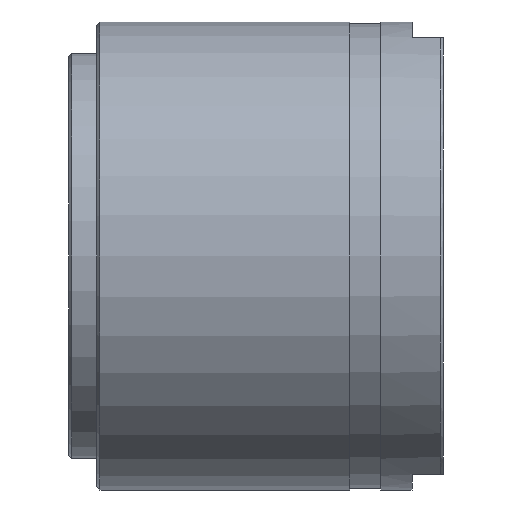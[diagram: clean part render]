
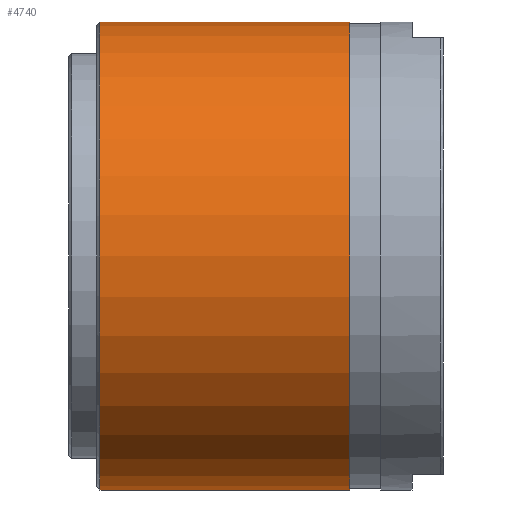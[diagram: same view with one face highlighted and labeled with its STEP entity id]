
A CAD part, left-side view. The second image highlights one B-rep face of the part: STEP entity #4740.
In plain terms, the highlighted cylindrical face has radius 7.5 mm (diameter 15 mm), a partial arc.
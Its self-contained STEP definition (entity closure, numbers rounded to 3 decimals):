
#351 = LINE ( 'NONE', #1102, #4996 ) ;
#673 = ORIENTED_EDGE ( 'NONE', *, *, #9951, .T. ) ;
#808 = VERTEX_POINT ( 'NONE', #10222 ) ;
#810 = EDGE_CURVE ( 'NONE', #808, #6524, #351, .T. ) ;
#880 = CARTESIAN_POINT ( 'NONE',  ( 0., -2.999, 7.5 ) ) ;
#901 = CARTESIAN_POINT ( 'NONE',  ( 0., 5., -7.5 ) ) ;
#952 = VERTEX_POINT ( 'NONE', #1483 ) ;
#1102 = CARTESIAN_POINT ( 'NONE',  ( 0., 6., -7.5 ) ) ;
#1279 = EDGE_CURVE ( 'NONE', #952, #6524, #1405, .T. ) ;
#1304 = ORIENTED_EDGE ( 'NONE', *, *, #1279, .T. ) ;
#1405 = CIRCLE ( 'NONE', #2786, 7.5 ) ;
#1483 = CARTESIAN_POINT ( 'NONE',  ( 0., 5., 7.5 ) ) ;
#2119 = VECTOR ( 'NONE', #7125, 1000. ) ;
#2786 = AXIS2_PLACEMENT_3D ( 'NONE', #9756, #5614, #9641 ) ;
#3355 = ORIENTED_EDGE ( 'NONE', *, *, #10289, .T. ) ;
#3707 = CARTESIAN_POINT ( 'NONE',  ( 0., -2.999, 0. ) ) ;
#3803 = CIRCLE ( 'NONE', #6874, 7.5 ) ;
#4392 = DIRECTION ( 'NONE',  ( 0., 1., 0. ) ) ;
#4740 = ADVANCED_FACE ( 'NONE', ( #5240 ), #9317, .T. ) ;
#4996 = VECTOR ( 'NONE', #4392, 1000. ) ;
#5106 = ORIENTED_EDGE ( 'NONE', *, *, #810, .F. ) ;
#5240 = FACE_OUTER_BOUND ( 'NONE', #7534, .T. ) ;
#5614 = DIRECTION ( 'NONE',  ( 0., -1., 0. ) ) ;
#6252 = DIRECTION ( 'NONE',  ( 0., 1., 0. ) ) ;
#6276 = CARTESIAN_POINT ( 'NONE',  ( 0., 6., 7.5 ) ) ;
#6524 = VERTEX_POINT ( 'NONE', #901 ) ;
#6874 = AXIS2_PLACEMENT_3D ( 'NONE', #3707, #6252, #9382 ) ;
#7070 = LINE ( 'NONE', #6276, #2119 ) ;
#7125 = DIRECTION ( 'NONE',  ( 0., 1., 0. ) ) ;
#7534 = EDGE_LOOP ( 'NONE', ( #5106, #3355, #673, #1304 ) ) ;
#7634 = VERTEX_POINT ( 'NONE', #880 ) ;
#7821 = CARTESIAN_POINT ( 'NONE',  ( 0., 6., 0. ) ) ;
#8475 = DIRECTION ( 'NONE',  ( 0., 0., 1. ) ) ;
#8520 = DIRECTION ( 'NONE',  ( 0., 1., 0. ) ) ;
#9228 = AXIS2_PLACEMENT_3D ( 'NONE', #7821, #8520, #8475 ) ;
#9317 = CYLINDRICAL_SURFACE ( 'NONE', #9228, 7.5 ) ;
#9382 = DIRECTION ( 'NONE',  ( 0., 0., 1. ) ) ;
#9641 = DIRECTION ( 'NONE',  ( 0., 0., 1. ) ) ;
#9756 = CARTESIAN_POINT ( 'NONE',  ( 0., 5., 0. ) ) ;
#9951 = EDGE_CURVE ( 'NONE', #7634, #952, #7070, .T. ) ;
#10222 = CARTESIAN_POINT ( 'NONE',  ( 0., -2.999, -7.5 ) ) ;
#10289 = EDGE_CURVE ( 'NONE', #808, #7634, #3803, .T. ) ;
